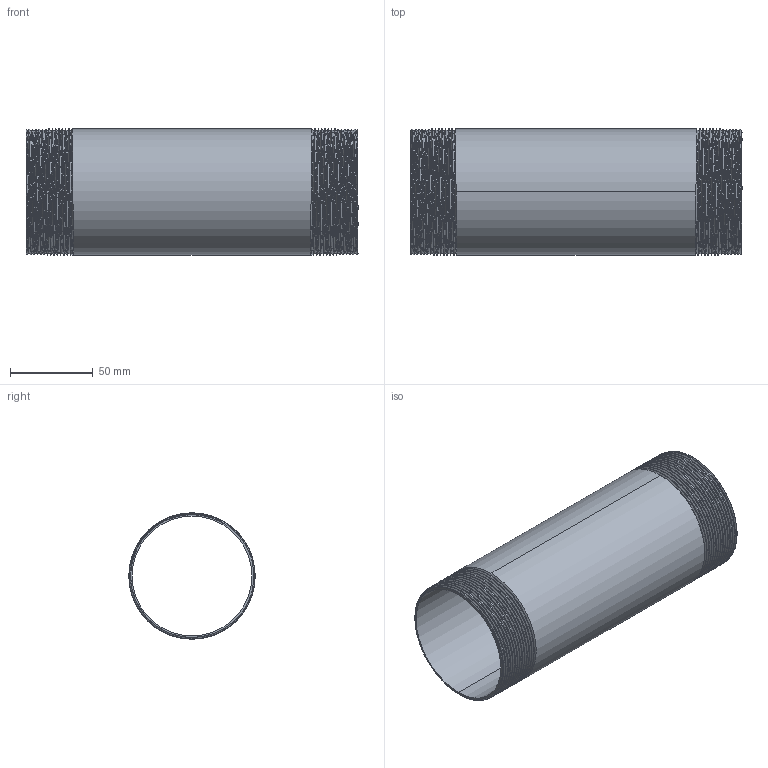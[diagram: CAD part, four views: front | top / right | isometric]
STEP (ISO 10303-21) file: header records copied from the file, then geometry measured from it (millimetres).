
FILE_DESCRIPTION (( 'STEP AP203' ), '1' );
FILE_NAME ('3D_R210_2 1-2x200_17185912.STEP', '2024-08-16T13:59:33', ( '' ), ( '' ), 'SwSTEP 2.0', 'SolidWorks 2024', '' );
FILE_SCHEMA (( 'CONFIG_CONTROL_DESIGN' ));
Length unit declared in the file: millimetre
Products named in the file (1): 3D_R210_2 1-2x200_17185912
Bounding box: 200 x 76.1 x 76.1 mm (x, y, z)
Volume: 84835.8 mm3; surface area: 100994.6 mm2
Topology: 1 solids, 1 shells, 72 faces, 204 edges, 134 vertices
Faces by surface type: cone 58, bspline 6, cylinder 4, plane 4
Entity records: 14195 total; most frequent: CARTESIAN_POINT 12523, ORIENTED_EDGE 408, DIRECTION 220, EDGE_CURVE 204, VERTEX_POINT 134, B_SPLINE_CURVE_WITH_KNOTS 120, AXIS2_PLACEMENT_3D 77, EDGE_LOOP 74
